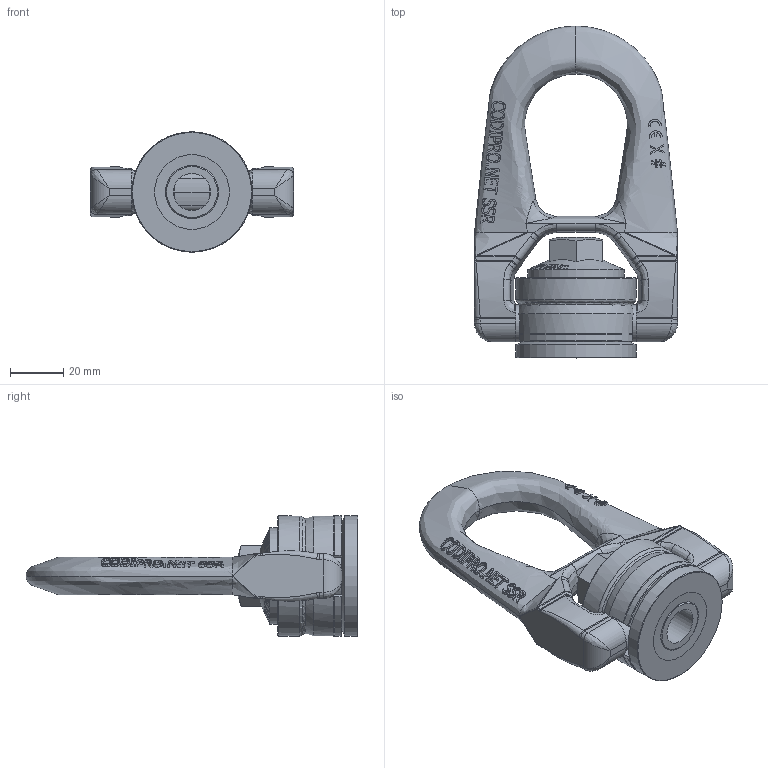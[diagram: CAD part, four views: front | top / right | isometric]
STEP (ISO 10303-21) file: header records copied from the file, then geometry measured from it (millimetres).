
FILE_DESCRIPTION(/* description */ (''),/* implementation_level */ '2;1');
FILE_NAME(/* name */ 'W:\CODIPRO\DOCUMENTS\Plans A NE PAS DIFFUSER !!!\Inventor\Standard Inventor\Produit Fini Inventor\SS_FE_DSR\Fichiers 3D\SS FE DSR M16.stp',/* time_stamp */ '2017-10-06T08:27:01+02:00',/* author */ ('rklenes'),/* organization */ (''),/* preprocessor_version */ 'ST-DEVELOPER v16.5',/* originating_system */ 'Autodesk Inventor 2017',/* authorisation */ '');
FILE_SCHEMA (('AUTOMOTIVE_DESIGN { 1 0 10303 214 3 1 1 }'));
Products named in the file (5): SS FE DSR M16; DRM_AF2B-1; DRB_B2B; SS_FE_DRA_M16; DRE_D2M20A
Assembly tree (4 placements, depth 2):
  SS FE DSR M16
    DRM_AF2B-1
    DRB_B2B
    SS_FE_DRA_M16
    DRE_D2M20A
Bounding box: 76 x 124.25 x 45 mm (x, y, z)
Volume: 101451.5 mm3; surface area: 37026.2 mm2
Topology: 4 solids, 4 shells, 784 faces, 2066 edges, 1320 vertices
Faces by surface type: plane 353, bspline 307, cylinder 81, cone 32, torus 10, sphere 1
Full cylindrical faces by diameter (mm): 13.835 x1, 14 x2, 19.85 x3, 20.05 x1, 22.6 x2, 23 x2, 32 x1, 36 x1, 45 x2
Entity records: 43478 total; most frequent: CARTESIAN_POINT 26308, ORIENTED_EDGE 4038, DIRECTION 2722, EDGE_CURVE 2019, VERTEX_POINT 1315, AXIS2_PLACEMENT_3D 1008, EDGE_LOOP 864, FACE_OUTER_BOUND 784
